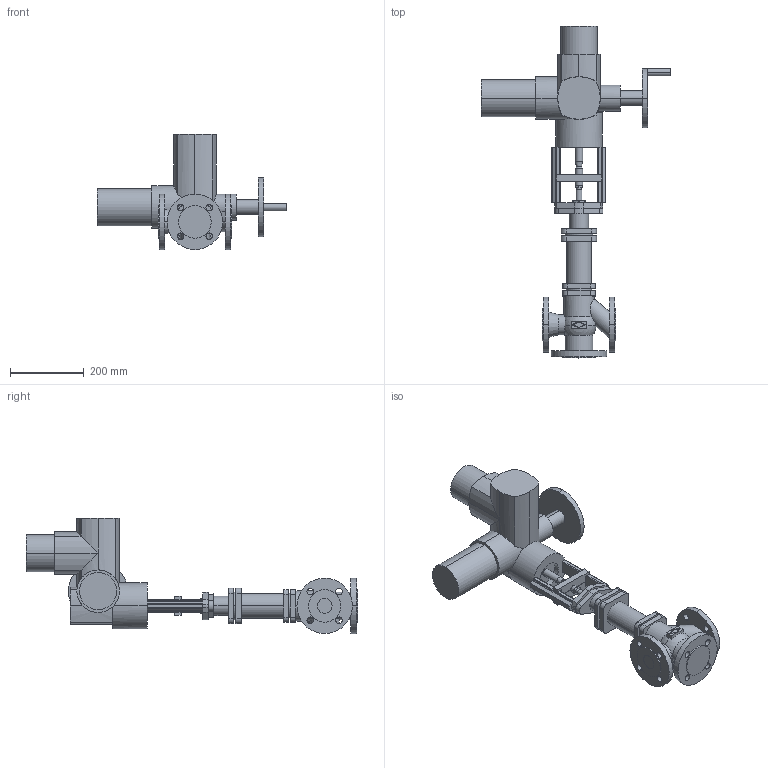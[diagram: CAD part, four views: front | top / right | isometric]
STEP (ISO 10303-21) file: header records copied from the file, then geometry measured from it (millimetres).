
FILE_DESCRIPTION(('OneSpaceDesigner STEP Export'),'2;1');
FILE_NAME('c000003215.stp','2007-01-25T11:44:04',(''),(''),'OneSpace Designer STEP processor for AP214 (Solid Model)','OneSpace Designer 14.00B 27-May-2006 (C) CoCreate Software GmbH','');
FILE_SCHEMA(('AUTOMOTIVE_DESIGN { 1 0 10303 214 1 1 1 1 }'));
Length unit declared in the file: millimetre
Products named in the file (2): 1; 2
Bounding box: 514 x 898.5 x 312 mm (x, y, z)
Volume: 11572896.4 mm3; surface area: 731195.2 mm2
Topology: 2 solids, 2 shells, 334 faces, 852 edges, 544 vertices
Faces by surface type: cylinder 164, plane 158, sphere 6, cone 6
Entity records: 10006 total; most frequent: CARTESIAN_POINT 2345, ORIENTED_EDGE 1704, DIRECTION 1454, EDGE_CURVE 852, VERTEX_POINT 544, AXIS2_PLACEMENT_3D 497, VECTOR 460, LINE 460
